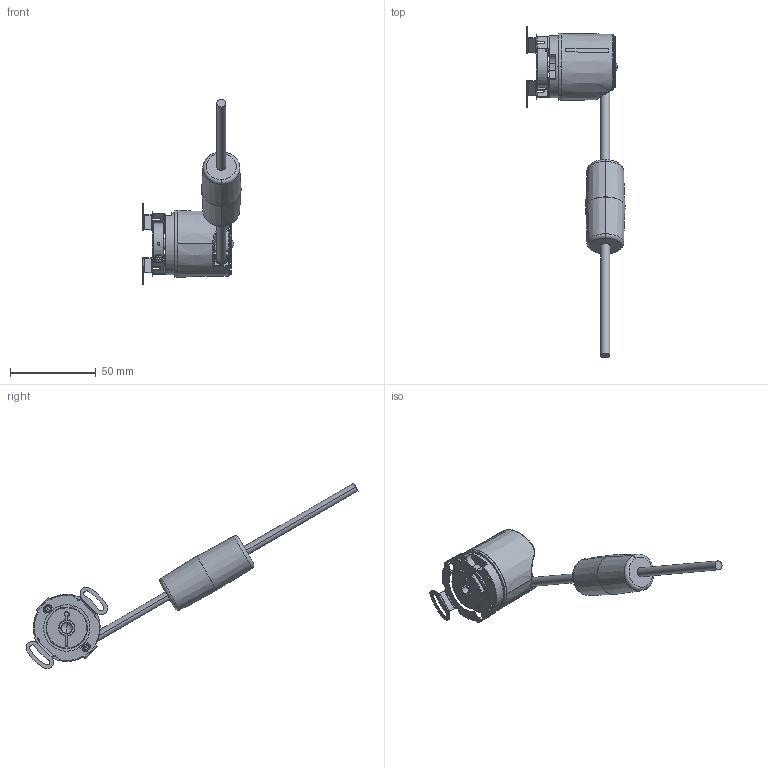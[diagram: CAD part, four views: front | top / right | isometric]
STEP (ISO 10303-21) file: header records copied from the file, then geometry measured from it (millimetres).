
FILE_DESCRIPTION (( 'STEP AP214' ), '1' );
FILE_NAME ('F3688.2621.XXXX.STEP', '2010-12-14T08:26:24', ( 'admin' ), ( 'Fritz Kübler GmbH' ), 'SwSTEP 2.0', 'SolidWorks 2009', '' );
FILE_SCHEMA (( 'AUTOMOTIVE_DESIGN' ));
Length unit declared in the file: millimetre
Products named in the file (1): F3688.2621.XXXX
Bounding box: 57.1 x 193.11 x 107.83 mm (x, y, z)
Surface area: 18300.5 mm2 (no closed solid volume)
Topology: 0 solids, 27 shells, 342 faces, 1371 edges, 1026 vertices
Faces by surface type: plane 137, cylinder 118, cone 42, torus 23, bspline 18, sphere 4
Entity records: 21161 total; most frequent: CARTESIAN_POINT 6493, DIRECTION 2164, ORIENTED_EDGE 2046, EDGE_CURVE 1370, VERTEX_POINT 1026, AXIS2_PLACEMENT_3D 740, LINE 684, VECTOR 684
